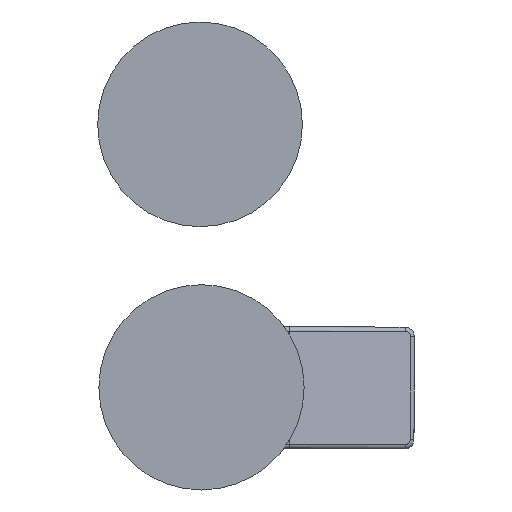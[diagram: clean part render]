
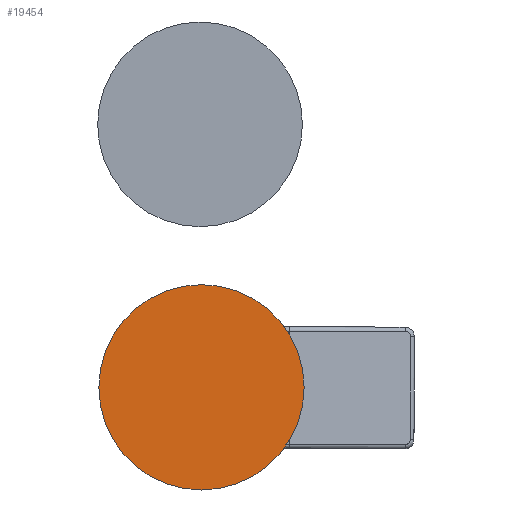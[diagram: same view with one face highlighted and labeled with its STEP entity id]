
A CAD part, left-side view. The second image highlights one B-rep face of the part: STEP entity #19454.
In plain terms, the highlighted planar face has unit normal (-1, 0, 0).
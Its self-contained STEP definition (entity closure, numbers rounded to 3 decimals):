
#114 = CARTESIAN_POINT ( 'NONE',  ( -122.437, 18.957, -89.595 ) ) ;
#240 = DIRECTION ( 'NONE',  ( 0., 0., -1. ) ) ;
#959 = DIRECTION ( 'NONE',  ( 0., 0., -1. ) ) ;
#2615 = CARTESIAN_POINT ( 'NONE',  ( -122.437, 18.957, -89.595 ) ) ;
#3659 = AXIS2_PLACEMENT_3D ( 'NONE', #2615, #19203, #240 ) ;
#7745 = ORIENTED_EDGE ( 'NONE', *, *, #8449, .T. ) ;
#8449 = EDGE_CURVE ( 'NONE', #17482, #33054, #36980, .T. ) ;
#12879 = CARTESIAN_POINT ( 'NONE',  ( -122.437, 48.957, -89.595 ) ) ;
#13100 = DIRECTION ( 'NONE',  ( -1., 0., 0. ) ) ;
#17482 = VERTEX_POINT ( 'NONE', #30223 ) ;
#19203 = DIRECTION ( 'NONE',  ( -1., 0., 0. ) ) ;
#19454 = ADVANCED_FACE ( 'NONE', ( #22472 ), #22677, .F. ) ;
#22060 = DIRECTION ( 'NONE',  ( 0., 0., 1. ) ) ;
#22128 = AXIS2_PLACEMENT_3D ( 'NONE', #114, #13100, #959 ) ;
#22472 = FACE_OUTER_BOUND ( 'NONE', #29689, .T. ) ;
#22677 = PLANE ( 'NONE',  #23930 ) ;
#23930 = AXIS2_PLACEMENT_3D ( 'NONE', #12879, #35670, #22060 ) ;
#29689 = EDGE_LOOP ( 'NONE', ( #36175, #7745 ) ) ;
#30223 = CARTESIAN_POINT ( 'NONE',  ( -122.437, 18.957, -54.595 ) ) ;
#33054 = VERTEX_POINT ( 'NONE', #37235 ) ;
#35670 = DIRECTION ( 'NONE',  ( 1., 0., 0. ) ) ;
#36175 = ORIENTED_EDGE ( 'NONE', *, *, #38711, .T. ) ;
#36980 = CIRCLE ( 'NONE', #3659, 35. ) ;
#37235 = CARTESIAN_POINT ( 'NONE',  ( -122.437, 18.957, -124.595 ) ) ;
#38711 = EDGE_CURVE ( 'NONE', #33054, #17482, #40491, .T. ) ;
#40491 = CIRCLE ( 'NONE', #22128, 35. ) ;
